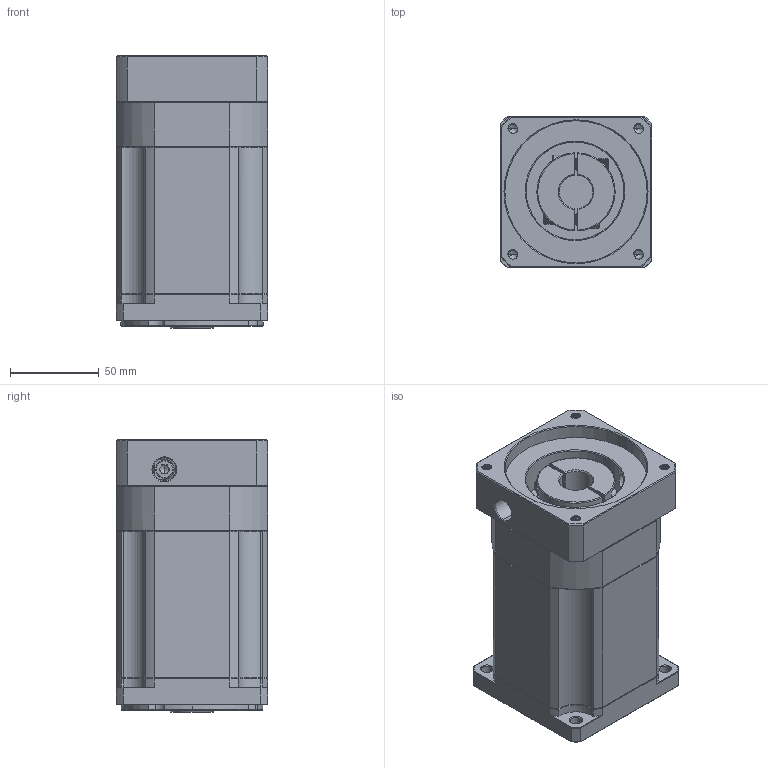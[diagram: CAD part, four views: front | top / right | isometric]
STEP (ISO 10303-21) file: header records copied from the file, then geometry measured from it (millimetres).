
FILE_DESCRIPTION (( 'STEP AP214' ), '1' );
FILE_NAME ('ZB90-K15-L3-19-80-100-M6.STEP', '2022-05-02T15:50:09', ( '' ), ( 'Microsoft' ), 'SwSTEP 2.0', 'SolidWorks 2016', '' );
FILE_SCHEMA (( 'AUTOMOTIVE_DESIGN' ));
Length unit declared in the file: millimetre
Products named in the file (1): ZB90-K15-L3-19-80-100-M6
Bounding box: 85 x 85 x 153 mm (x, y, z)
Volume: 884817.6 mm3; surface area: 99830.4 mm2
Topology: 4 solids, 5 shells, 1882 faces, 4914 edges, 3111 vertices
Faces by surface type: plane 879, cylinder 358, cone 328, bspline 292, torus 25
Entity records: 98963 total; most frequent: CARTESIAN_POINT 34521, ORIENTED_EDGE 9788, DIRECTION 7993, EDGE_CURVE 4894, VERTEX_POINT 3111, VECTOR 3045, LINE 3045, AXIS2_PLACEMENT_3D 2474
